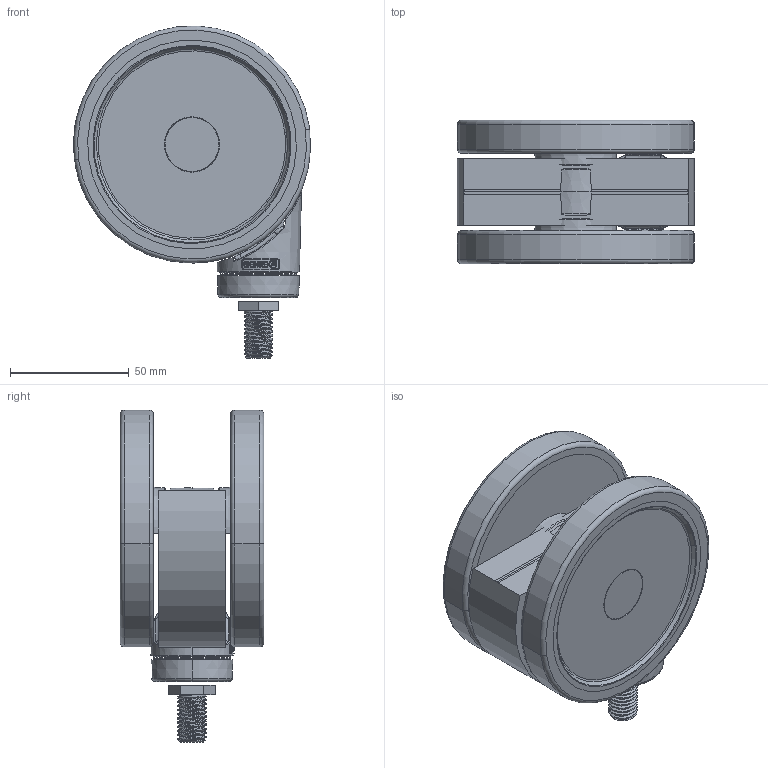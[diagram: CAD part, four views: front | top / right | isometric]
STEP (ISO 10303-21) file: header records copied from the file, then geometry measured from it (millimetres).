
FILE_DESCRIPTION((''),'2;1');
FILE_NAME('PRT0024','2026-04-08T18:53:22',('Administrator'),(''),'CREO PARAMETRIC BY PTC INC, 2022124','CREO PARAMETRIC BY PTC INC, 2022124','');
FILE_SCHEMA(('AUTOMOTIVE_DESIGN { 1 0 10303 214 1 1 1 1 }'));
Length unit declared in the file: millimetre
Products named in the file (1): PRT0024
Bounding box: 99.99 x 60.5 x 139.95 mm (x, y, z)
Surface area: 61590.5 mm2 (no closed solid volume)
Topology: 0 solids, 30 shells, 139 faces, 757 edges, 642 vertices
Faces by surface type: torus 34, cylinder 29, plane 28, cone 28, bspline 20
Entity records: 15454 total; most frequent: CARTESIAN_POINT 9305, ORIENTED_EDGE 995, DIRECTION 823, EDGE_CURVE 757, VERTEX_POINT 642, B_SPLINE_CURVE_WITH_KNOTS 416, AXIS2_PLACEMENT_3D 350, CIRCLE 221
